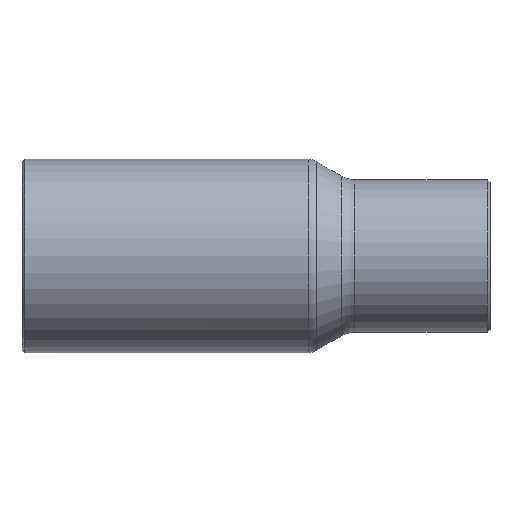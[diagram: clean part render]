
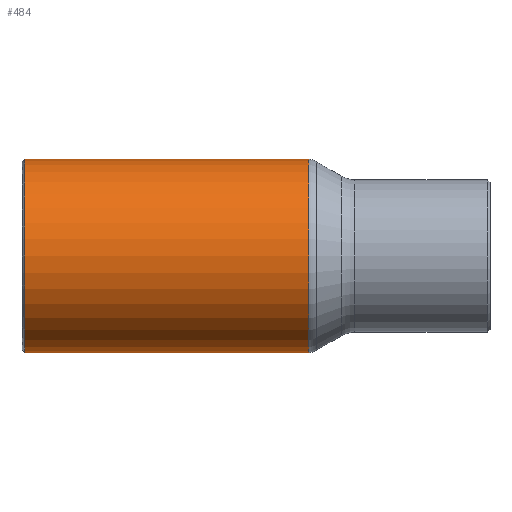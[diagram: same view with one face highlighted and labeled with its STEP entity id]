
A CAD part, front view. The second image highlights one B-rep face of the part: STEP entity #484.
In plain terms, the highlighted cylindrical face has radius 7.25 mm (diameter 14.5 mm), a full revolution.
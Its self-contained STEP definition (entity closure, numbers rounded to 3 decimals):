
#364=CARTESIAN_POINT('',(-15.4,7.25,0.));
#365=VERTEX_POINT('',#364);
#366=CARTESIAN_POINT('',(-15.4,0.0,0.0));
#367=DIRECTION('',(-1.0,0.0,0.0));
#368=DIRECTION('',(0.0,-1.0,0.0));
#369=AXIS2_PLACEMENT_3D('',#366,#367,#368);
#370=CIRCLE('',#369,7.25);
#371=EDGE_CURVE('',#365,#365,#370,.T.);
#396=CARTESIAN_POINT('',(1.95,0.0,0.0));
#397=DIRECTION('',(1.0,0.0,0.0));
#398=DIRECTION('',(0.0,1.0,0.0));
#399=AXIS2_PLACEMENT_3D('',#396,#397,#398);
#400=CYLINDRICAL_SURFACE('',#399,7.25);
#401=CARTESIAN_POINT('',(5.904,6.297,3.593));
#402=VERTEX_POINT('',#401);
#403=CARTESIAN_POINT('',(5.904,6.297,-3.593));
#404=VERTEX_POINT('',#403);
#405=CARTESIAN_POINT('',(5.904,0.0,0.0));
#406=DIRECTION('',(1.0,0.0,0.0));
#407=DIRECTION('',(0.0,-1.0,0.));
#408=AXIS2_PLACEMENT_3D('',#405,#406,#407);
#409=CIRCLE('',#408,7.25);
#410=EDGE_CURVE('',#402,#404,#409,.T.);
#411=ORIENTED_EDGE('',*,*,#410,.F.);
#412=CARTESIAN_POINT('',(0.,4.27,5.859));
#413=VERTEX_POINT('',#412);
#414=CARTESIAN_POINT('',(0.,4.27,5.859));
#415=CARTESIAN_POINT('',(0.,4.27,5.859));
#416=CARTESIAN_POINT('',(0.,4.27,5.859));
#417=CARTESIAN_POINT('',(0.,4.27,5.859));
#418=CARTESIAN_POINT('',(0.295,4.27,5.859));
#419=CARTESIAN_POINT('',(0.664,4.294,5.842));
#420=CARTESIAN_POINT('',(1.207,4.371,5.785));
#421=CARTESIAN_POINT('',(1.492,4.425,5.743));
#422=CARTESIAN_POINT('',(2.254,4.602,5.605));
#423=CARTESIAN_POINT('',(3.064,4.882,5.373));
#424=CARTESIAN_POINT('',(4.001,5.292,4.962));
#425=CARTESIAN_POINT('',(4.86,5.713,4.485));
#426=CARTESIAN_POINT('',(5.484,6.056,4.007));
#427=CARTESIAN_POINT('',(5.862,6.273,3.635));
#428=CARTESIAN_POINT('',(5.904,6.297,3.593));
#429=B_SPLINE_CURVE_WITH_KNOTS('',3,(#414,#415,#416,#417,#418,#419,#420,#421,#422,#423,#424,#425,#426,#427,#428),.UNSPECIFIED.,.F.,.U.,(4,3,1,1,1,1,1,1,1,1,4),(-3.496,-3.496,-3.434,-3.418,-3.379,-3.371,-3.247,-3.184,-3.122,-2.997,-2.981),.UNSPECIFIED.);
#430=EDGE_CURVE('',#413,#402,#429,.T.);
#431=ORIENTED_EDGE('',*,*,#430,.F.);
#432=CARTESIAN_POINT('',(5.904,6.297,-3.593));
#433=CARTESIAN_POINT('',(5.864,6.274,-3.633));
#434=CARTESIAN_POINT('',(5.683,6.17,-3.811));
#435=CARTESIAN_POINT('',(5.401,6.012,-4.058));
#436=CARTESIAN_POINT('',(4.888,5.734,-4.446));
#437=CARTESIAN_POINT('',(4.421,5.495,-4.736));
#438=CARTESIAN_POINT('',(3.904,5.252,-4.999));
#439=CARTESIAN_POINT('',(3.595,5.115,-5.14));
#440=CARTESIAN_POINT('',(2.935,4.84,-5.405));
#441=CARTESIAN_POINT('',(2.244,4.598,-5.608));
#442=CARTESIAN_POINT('',(1.506,4.428,-5.741));
#443=CARTESIAN_POINT('',(0.889,4.314,-5.828));
#444=CARTESIAN_POINT('',(0.151,4.249,-5.874));
#445=CARTESIAN_POINT('',(-0.64,4.292,-5.843));
#446=CARTESIAN_POINT('',(-1.122,4.357,-5.795));
#447=CARTESIAN_POINT('',(-1.645,4.453,-5.722));
#448=CARTESIAN_POINT('',(-2.148,4.584,-5.619));
#449=CARTESIAN_POINT('',(-2.581,4.724,-5.5));
#450=CARTESIAN_POINT('',(-2.92,4.843,-5.396));
#451=CARTESIAN_POINT('',(-3.457,5.049,-5.208));
#452=CARTESIAN_POINT('',(-4.152,5.362,-4.89));
#453=CARTESIAN_POINT('',(-4.713,5.644,-4.555));
#454=CARTESIAN_POINT('',(-5.505,6.062,-4.007));
#455=CARTESIAN_POINT('',(-6.171,6.449,-3.377));
#456=CARTESIAN_POINT('',(-6.7,6.768,-2.611));
#457=CARTESIAN_POINT('',(-6.893,6.887,-2.272));
#458=CARTESIAN_POINT('',(-7.085,7.005,-1.888));
#459=CARTESIAN_POINT('',(-7.283,7.128,-1.379));
#460=CARTESIAN_POINT('',(-7.43,7.222,-0.739));
#461=CARTESIAN_POINT('',(-7.486,7.257,-0.117));
#462=CARTESIAN_POINT('',(-7.46,7.24,0.578));
#463=CARTESIAN_POINT('',(-7.343,7.166,1.152));
#464=CARTESIAN_POINT('',(-7.146,7.043,1.741));
#465=CARTESIAN_POINT('',(-6.958,6.926,2.165));
#466=CARTESIAN_POINT('',(-6.527,6.662,2.905));
#467=CARTESIAN_POINT('',(-6.045,6.375,3.48));
#468=CARTESIAN_POINT('',(-5.345,5.98,4.113));
#469=CARTESIAN_POINT('',(-4.759,5.664,4.541));
#470=CARTESIAN_POINT('',(-4.,5.292,4.962));
#471=CARTESIAN_POINT('',(-3.074,4.886,5.369));
#472=CARTESIAN_POINT('',(-2.025,4.522,5.671));
#473=CARTESIAN_POINT('',(-0.889,4.309,5.831));
#474=CARTESIAN_POINT('',(-0.295,4.27,5.859));
#475=CARTESIAN_POINT('',(0.,4.27,5.859));
#476=B_SPLINE_CURVE_WITH_KNOTS('',3,(#432,#433,#434,#435,#436,#437,#438,#439,#440,#441,#442,#443,#444,#445,#446,#447,#448,#449,#450,#451,#452,#453,#454,#455,#456,#457,#458,#459,#460,#461,#462,#463,#464,#465,#466,#467,#468,#469,#470,#471,#472,#473,#474,#475),.UNSPECIFIED.,.F.,.U.,(4,1,1,1,1,1,1,1,1,1,1,1,1,1,1,1,1,1,1,1,1,1,1,1,1,1,1,1,1,1,1,1,1,1,1,1,1,1,1,1,1,4),(-2.263,-2.248,-2.196,-2.164,-2.081,-2.055,-2.019,-1.998,-1.883,-1.852,-1.831,-1.748,-1.696,-1.665,-1.644,-1.582,-1.55,-1.54,-1.498,-1.415,-1.353,-1.332,-1.165,-1.113,-1.082,-1.061,-0.999,-0.937,-0.884,-0.832,-0.749,-0.728,-0.666,-0.624,-0.499,-0.468,-0.375,-0.312,-0.25,-0.125,-0.062,0.0),.UNSPECIFIED.);
#477=EDGE_CURVE('',#404,#413,#476,.T.);
#478=ORIENTED_EDGE('',*,*,#477,.F.);
#479=EDGE_LOOP('',(#411,#431,#478));
#480=FACE_OUTER_BOUND('',#479,.T.);
#481=ORIENTED_EDGE('',*,*,#371,.F.);
#482=EDGE_LOOP('',(#481));
#483=FACE_BOUND('',#482,.T.);
#484=ADVANCED_FACE('',(#480,#483),#400,.T.);
